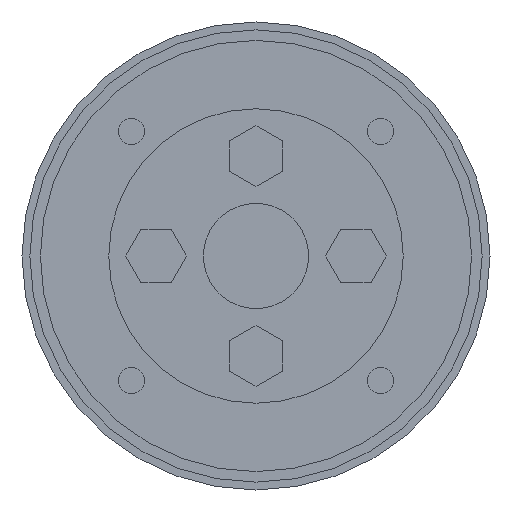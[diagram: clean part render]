
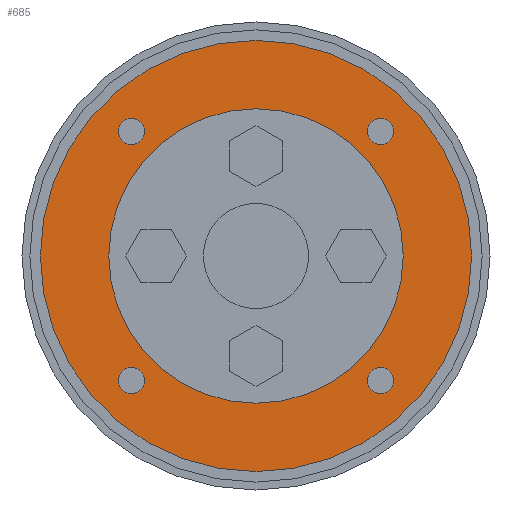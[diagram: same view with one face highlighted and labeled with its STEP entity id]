
A CAD part, left-side view. The second image highlights one B-rep face of the part: STEP entity #685.
In plain terms, the highlighted planar face has unit normal (-1, 0, 0).
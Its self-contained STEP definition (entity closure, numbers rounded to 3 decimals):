
#48 = CIRCLE ( 'NONE', #4363, 14.4 ) ;
#166 = DIRECTION ( 'NONE',  ( 0., 0., -1. ) ) ;
#167 = DIRECTION ( 'NONE',  ( 1., 0., 0. ) ) ;
#168 = CARTESIAN_POINT ( 'NONE',  ( 20., 14.4, 0. ) ) ;
#169 = AXIS2_PLACEMENT_3D ( 'NONE', #168, #167, #166 ) ;
#170 = PLANE ( 'NONE',  #169 ) ;
#171 = FACE_OUTER_BOUND ( 'NONE', #674, .T. ) ;
#172 = FACE_BOUND ( 'NONE', #670, .T. ) ;
#173 = FACE_BOUND ( 'NONE', #1044, .T. ) ;
#174 = FACE_BOUND ( 'NONE', #1040, .T. ) ;
#175 = FACE_BOUND ( 'NONE', #1036, .T. ) ;
#176 = FACE_BOUND ( 'NONE', #686, .T. ) ;
#177 = DIRECTION ( 'NONE',  ( 0., 0., 1. ) ) ;
#178 = DIRECTION ( 'NONE',  ( -1., 0., 0. ) ) ;
#179 = CARTESIAN_POINT ( 'NONE',  ( 20., 0., 0. ) ) ;
#180 = AXIS2_PLACEMENT_3D ( 'NONE', #179, #178, #177 ) ;
#185 = CIRCLE ( 'NONE', #180, 41. ) ;
#188 = DIRECTION ( 'NONE',  ( 0., 0., 1. ) ) ;
#189 = DIRECTION ( 'NONE',  ( -1., 0., 0. ) ) ;
#190 = CARTESIAN_POINT ( 'NONE',  ( 20., 0., 0. ) ) ;
#191 = AXIS2_PLACEMENT_3D ( 'NONE', #190, #189, #188 ) ;
#192 = CIRCLE ( 'NONE', #191, 14.4 ) ;
#222 = EDGE_CURVE ( 'NONE', #224, #225, #1743, .T. ) ;
#224 = VERTEX_POINT ( 'NONE', #1735 ) ;
#225 = VERTEX_POINT ( 'NONE', #1734 ) ;
#251 = EDGE_CURVE ( 'NONE', #476, #252, #1909, .T. ) ;
#252 = VERTEX_POINT ( 'NONE', #1904 ) ;
#364 = EDGE_CURVE ( 'NONE', #370, #365, #2190, .T. ) ;
#365 = VERTEX_POINT ( 'NONE', #2185 ) ;
#370 = VERTEX_POINT ( 'NONE', #2112 ) ;
#371 = VERTEX_POINT ( 'NONE', #2111 ) ;
#373 = EDGE_CURVE ( 'NONE', #371, #374, #2110, .T. ) ;
#374 = VERTEX_POINT ( 'NONE', #2105 ) ;
#476 = VERTEX_POINT ( 'NONE', #2351 ) ;
#537 = EDGE_CURVE ( 'NONE', #648, #649, #48, .T. ) ;
#642 = VERTEX_POINT ( 'NONE', #4357 ) ;
#644 = EDGE_CURVE ( 'NONE', #645, #642, #4356, .T. ) ;
#645 = VERTEX_POINT ( 'NONE', #4351 ) ;
#648 = VERTEX_POINT ( 'NONE', #4350 ) ;
#649 = VERTEX_POINT ( 'NONE', #4349 ) ;
#670 = EDGE_LOOP ( 'NONE', ( #671, #672 ) ) ;
#671 = ORIENTED_EDGE ( 'NONE', *, *, #537, .F. ) ;
#672 = ORIENTED_EDGE ( 'NONE', *, *, #673, .F. ) ;
#673 = EDGE_CURVE ( 'NONE', #649, #648, #192, .T. ) ;
#674 = EDGE_LOOP ( 'NONE', ( #675, #688 ) ) ;
#675 = ORIENTED_EDGE ( 'NONE', *, *, #644, .T. ) ;
#684 = EDGE_CURVE ( 'NONE', #642, #645, #185, .T. ) ;
#685 = ADVANCED_FACE ( 'NONE', ( #176, #175, #174, #173, #172, #171 ), #170, .F. ) ;
#686 = EDGE_LOOP ( 'NONE', ( #687, #1035 ) ) ;
#687 = ORIENTED_EDGE ( 'NONE', *, *, #1034, .F. ) ;
#688 = ORIENTED_EDGE ( 'NONE', *, *, #684, .T. ) ;
#1034 = EDGE_CURVE ( 'NONE', #374, #371, #3189, .T. ) ;
#1035 = ORIENTED_EDGE ( 'NONE', *, *, #373, .F. ) ;
#1036 = EDGE_LOOP ( 'NONE', ( #1037, #1039 ) ) ;
#1037 = ORIENTED_EDGE ( 'NONE', *, *, #1038, .F. ) ;
#1038 = EDGE_CURVE ( 'NONE', #225, #224, #3061, .T. ) ;
#1039 = ORIENTED_EDGE ( 'NONE', *, *, #222, .F. ) ;
#1040 = EDGE_LOOP ( 'NONE', ( #1041, #1043 ) ) ;
#1041 = ORIENTED_EDGE ( 'NONE', *, *, #1042, .F. ) ;
#1042 = EDGE_CURVE ( 'NONE', #365, #370, #3056, .T. ) ;
#1043 = ORIENTED_EDGE ( 'NONE', *, *, #364, .F. ) ;
#1044 = EDGE_LOOP ( 'NONE', ( #1045, #1047 ) ) ;
#1045 = ORIENTED_EDGE ( 'NONE', *, *, #1046, .F. ) ;
#1046 = EDGE_CURVE ( 'NONE', #252, #476, #3051, .T. ) ;
#1047 = ORIENTED_EDGE ( 'NONE', *, *, #251, .F. ) ;
#1734 = CARTESIAN_POINT ( 'NONE',  ( 20., -23.688, -26.188 ) ) ;
#1735 = CARTESIAN_POINT ( 'NONE',  ( 20., -23.688, -21.188 ) ) ;
#1739 = DIRECTION ( 'NONE',  ( 0., 0., -1. ) ) ;
#1740 = DIRECTION ( 'NONE',  ( -1., 0., 0. ) ) ;
#1741 = CARTESIAN_POINT ( 'NONE',  ( 20., -23.688, -23.688 ) ) ;
#1742 = AXIS2_PLACEMENT_3D ( 'NONE', #1741, #1740, #1739 ) ;
#1743 = CIRCLE ( 'NONE', #1742, 2.5 ) ;
#1904 = CARTESIAN_POINT ( 'NONE',  ( 20., 23.688, 26.188 ) ) ;
#1905 = DIRECTION ( 'NONE',  ( 0., 0., 1. ) ) ;
#1906 = DIRECTION ( 'NONE',  ( -1., 0., 0. ) ) ;
#1907 = CARTESIAN_POINT ( 'NONE',  ( 20., 23.688, 23.688 ) ) ;
#1908 = AXIS2_PLACEMENT_3D ( 'NONE', #1907, #1906, #1905 ) ;
#1909 = CIRCLE ( 'NONE', #1908, 2.5 ) ;
#2105 = CARTESIAN_POINT ( 'NONE',  ( 20., 26.188, -23.688 ) ) ;
#2106 = DIRECTION ( 'NONE',  ( 0., 1., 0. ) ) ;
#2107 = DIRECTION ( 'NONE',  ( -1., 0., 0. ) ) ;
#2108 = CARTESIAN_POINT ( 'NONE',  ( 20., 23.688, -23.688 ) ) ;
#2109 = AXIS2_PLACEMENT_3D ( 'NONE', #2108, #2107, #2106 ) ;
#2110 = CIRCLE ( 'NONE', #2109, 2.5 ) ;
#2111 = CARTESIAN_POINT ( 'NONE',  ( 20., 21.188, -23.688 ) ) ;
#2112 = CARTESIAN_POINT ( 'NONE',  ( 20., -21.188, 23.688 ) ) ;
#2185 = CARTESIAN_POINT ( 'NONE',  ( 20., -26.188, 23.688 ) ) ;
#2186 = DIRECTION ( 'NONE',  ( 0., -1., 0. ) ) ;
#2187 = DIRECTION ( 'NONE',  ( -1., 0., 0. ) ) ;
#2188 = CARTESIAN_POINT ( 'NONE',  ( 20., -23.688, 23.688 ) ) ;
#2189 = AXIS2_PLACEMENT_3D ( 'NONE', #2188, #2187, #2186 ) ;
#2190 = CIRCLE ( 'NONE', #2189, 2.5 ) ;
#2351 = CARTESIAN_POINT ( 'NONE',  ( 20., 23.688, 21.188 ) ) ;
#3047 = DIRECTION ( 'NONE',  ( 0., 0., 1. ) ) ;
#3048 = DIRECTION ( 'NONE',  ( -1., 0., 0. ) ) ;
#3049 = CARTESIAN_POINT ( 'NONE',  ( 20., 23.688, 23.688 ) ) ;
#3050 = AXIS2_PLACEMENT_3D ( 'NONE', #3049, #3048, #3047 ) ;
#3051 = CIRCLE ( 'NONE', #3050, 2.5 ) ;
#3052 = DIRECTION ( 'NONE',  ( 0., -1., 0. ) ) ;
#3053 = DIRECTION ( 'NONE',  ( -1., 0., 0. ) ) ;
#3054 = CARTESIAN_POINT ( 'NONE',  ( 20., -23.688, 23.688 ) ) ;
#3055 = AXIS2_PLACEMENT_3D ( 'NONE', #3054, #3053, #3052 ) ;
#3056 = CIRCLE ( 'NONE', #3055, 2.5 ) ;
#3057 = DIRECTION ( 'NONE',  ( 0., 0., -1. ) ) ;
#3058 = DIRECTION ( 'NONE',  ( -1., 0., 0. ) ) ;
#3059 = CARTESIAN_POINT ( 'NONE',  ( 20., -23.688, -23.688 ) ) ;
#3060 = AXIS2_PLACEMENT_3D ( 'NONE', #3059, #3058, #3057 ) ;
#3061 = CIRCLE ( 'NONE', #3060, 2.5 ) ;
#3186 = DIRECTION ( 'NONE',  ( 0., 1., 0. ) ) ;
#3187 = DIRECTION ( 'NONE',  ( -1., 0., 0. ) ) ;
#3188 = AXIS2_PLACEMENT_3D ( 'NONE', #3193, #3187, #3186 ) ;
#3189 = CIRCLE ( 'NONE', #3188, 2.5 ) ;
#3193 = CARTESIAN_POINT ( 'NONE',  ( 20., 23.688, -23.688 ) ) ;
#4333 = DIRECTION ( 'NONE',  ( -1., 0., 0. ) ) ;
#4349 = CARTESIAN_POINT ( 'NONE',  ( 20., 0., -14.4 ) ) ;
#4350 = CARTESIAN_POINT ( 'NONE',  ( 20., 0., 14.4 ) ) ;
#4351 = CARTESIAN_POINT ( 'NONE',  ( 20., 0., 41. ) ) ;
#4352 = DIRECTION ( 'NONE',  ( 0., 0., 1. ) ) ;
#4353 = DIRECTION ( 'NONE',  ( -1., 0., 0. ) ) ;
#4354 = CARTESIAN_POINT ( 'NONE',  ( 20., 0., 0. ) ) ;
#4355 = AXIS2_PLACEMENT_3D ( 'NONE', #4354, #4353, #4352 ) ;
#4356 = CIRCLE ( 'NONE', #4355, 41. ) ;
#4357 = CARTESIAN_POINT ( 'NONE',  ( 20., 0., -41. ) ) ;
#4362 = DIRECTION ( 'NONE',  ( 0., 0., 1. ) ) ;
#4363 = AXIS2_PLACEMENT_3D ( 'NONE', #4364, #4333, #4362 ) ;
#4364 = CARTESIAN_POINT ( 'NONE',  ( 20., 0., 0. ) ) ;
